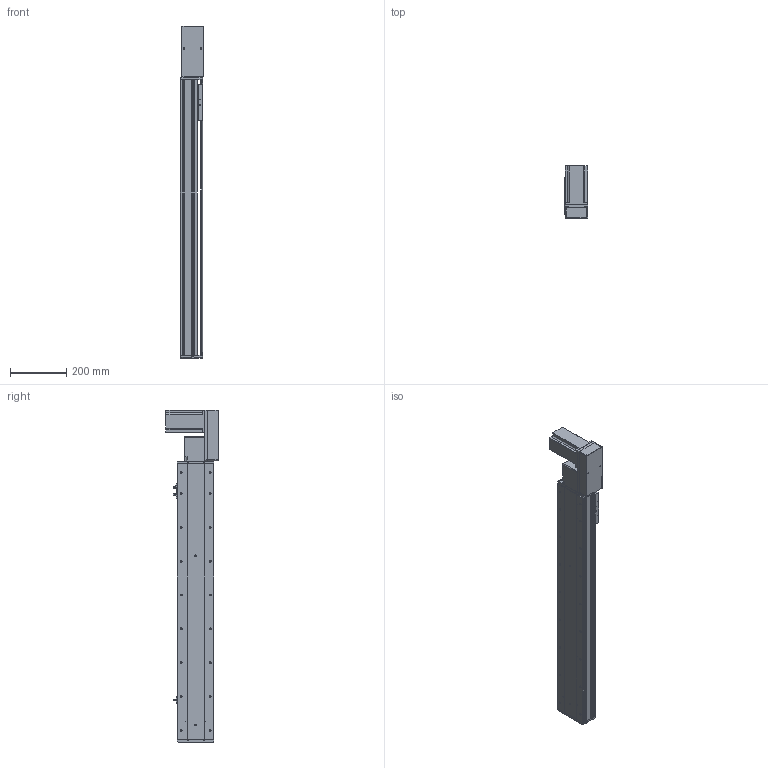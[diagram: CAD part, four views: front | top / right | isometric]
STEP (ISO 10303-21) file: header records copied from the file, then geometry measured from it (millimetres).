
FILE_DESCRIPTION (( 'STEP AP214' ), '1' );
FILE_NAME ('KSD130B-S750-MLB-CM.STEP', '2019-11-14T02:08:46', ( '微软用户' ), ( '微软中国' ), 'SwSTEP 2.0', 'SolidWorks 2014', '' );
FILE_SCHEMA (( 'AUTOMOTIVE_DESIGN' ));
Length unit declared in the file: millimetre
Products named in the file (12): 台达ECMA－C20807AS伺服电机; 130宽模组保护罩上下左右折-同步带; 130宽模组马达安装板连板左右折同步带; 覜茼え100遵圉猾敕; U倰嫖萇EEㄜSX672; 130宽盖板半封闭同步带-750行程; 130宽马达安装板同步带左-改; 130宽马达安装板同步带半封闭; 130宽同步带安装座半封闭; 130宽端盖同步带半封闭; 130宽底板半封闭同步带-750行程; KSD130B-S750-MLB-CM
Assembly tree (13 placements, depth 2):
  KSD130B-S750-MLB-CM
    130宽底板半封闭同步带-750行程
    130宽端盖同步带半封闭
    130宽同步带安装座半封闭
    130宽马达安装板同步带半封闭
    130宽马达安装板同步带左-改
    130宽盖板半封闭同步带-750行程
    U倰嫖萇EEㄜSX672  x3
    覜茼え100遵圉猾敕
    130宽模组马达安装板连板左右折同步带
    130宽模组保护罩上下左右折-同步带
    台达ECMA－C20807AS伺服电机
Bounding box: 82.5 x 184.8 x 1177 mm (x, y, z)
Volume: 4313403.6 mm3; surface area: 1154929.6 mm2
Topology: 14 solids, 14 shells, 1479 faces, 4201 edges, 2691 vertices
Faces by surface type: cylinder 702, plane 618, cone 159
Entity records: 48147 total; most frequent: CARTESIAN_POINT 8828, DIRECTION 7347, ORIENTED_EDGE 7070, EDGE_CURVE 3535, AXIS2_PLACEMENT_3D 2670, VERTEX_POINT 2315, VECTOR 2007, LINE 2007
